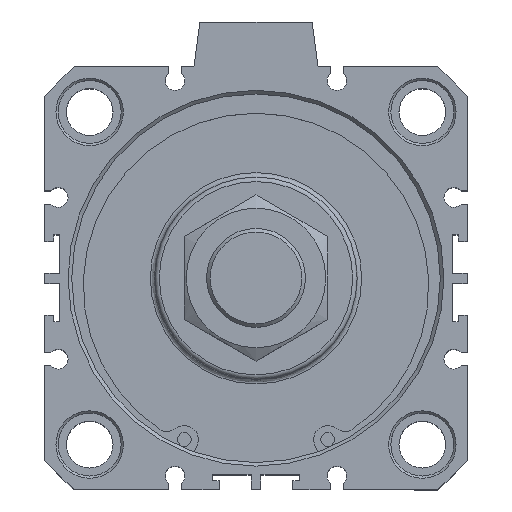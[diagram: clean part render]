
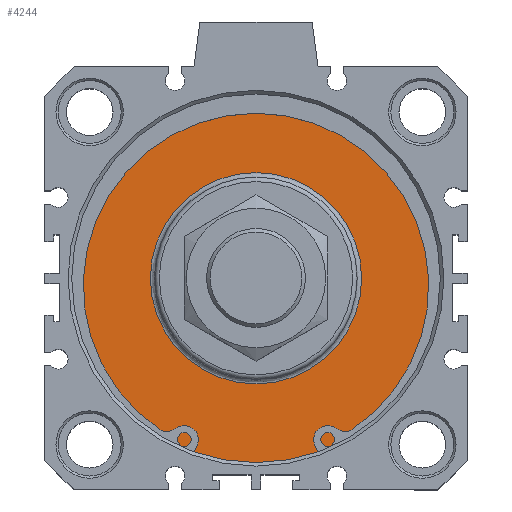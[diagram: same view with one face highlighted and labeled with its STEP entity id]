
A CAD part, top view. The second image highlights one B-rep face of the part: STEP entity #4244.
In plain terms, the highlighted planar face has unit normal (0, 0, 1).
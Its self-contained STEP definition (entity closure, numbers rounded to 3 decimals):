
#4193=CARTESIAN_POINT('',(2.632,21.227,55.6));
#4194=VERTEX_POINT('',#4193);
#4195=CARTESIAN_POINT('',(2.632,-2.273,55.6));
#4196=DIRECTION('',(0.0,0.0,1.0));
#4197=DIRECTION('',(0.0,-1.0,0.0));
#4198=AXIS2_PLACEMENT_3D('',#4195,#4196,#4197);
#4199=CIRCLE('',#4198,23.5);
#4200=EDGE_CURVE('',#4194,#4194,#4199,.T.);
#4225=CARTESIAN_POINT('',(2.632,29.477,55.6));
#4226=DIRECTION('',(0.0,0.0,1.0));
#4227=DIRECTION('',(1.0,0.0,0.0));
#4228=AXIS2_PLACEMENT_3D('',#4225,#4226,#4227);
#4229=PLANE('',#4228);
#4230=CARTESIAN_POINT('',(2.632,38.727,55.6));
#4231=VERTEX_POINT('',#4230);
#4232=CARTESIAN_POINT('',(2.632,-2.273,55.6));
#4233=DIRECTION('',(0.0,0.0,-1.0));
#4234=DIRECTION('',(0.0,1.0,0.0));
#4235=AXIS2_PLACEMENT_3D('',#4232,#4233,#4234);
#4236=CIRCLE('',#4235,41.);
#4237=EDGE_CURVE('',#4231,#4231,#4236,.T.);
#4238=ORIENTED_EDGE('',*,*,#4237,.F.);
#4239=EDGE_LOOP('',(#4238));
#4240=FACE_OUTER_BOUND('',#4239,.T.);
#4241=ORIENTED_EDGE('',*,*,#4200,.F.);
#4242=EDGE_LOOP('',(#4241));
#4243=FACE_BOUND('',#4242,.T.);
#4244=ADVANCED_FACE('',(#4240,#4243),#4229,.T.);
